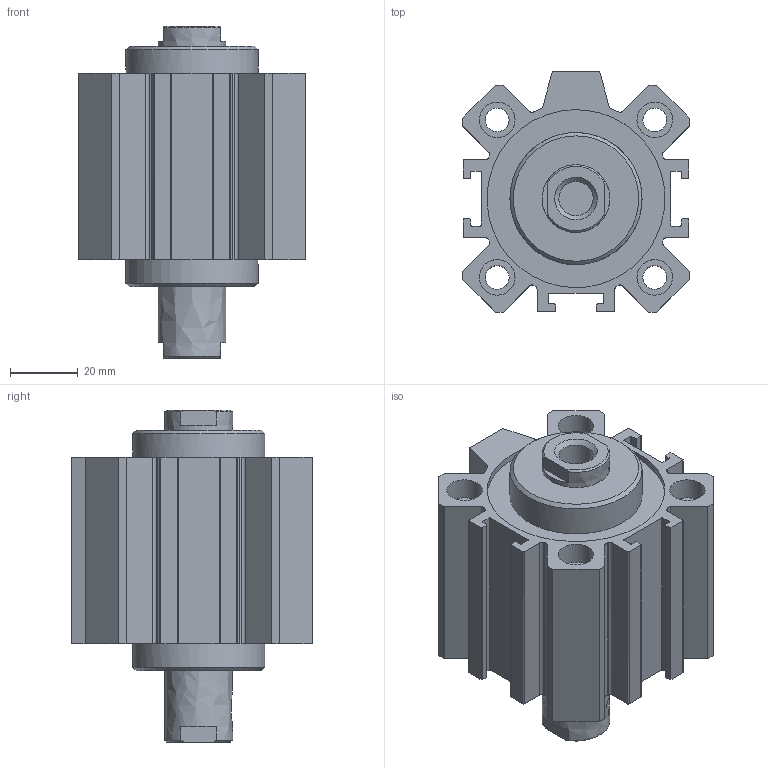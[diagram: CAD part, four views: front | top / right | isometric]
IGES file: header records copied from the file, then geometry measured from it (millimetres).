
Global section: file name: 1514_50_0015; native system: Autodesk Inventor 2014; preprocessor: unknown; author: A. Manieri; date: 20160824.134139; units: millimetre
Bounding box: 67 x 71 x 98 mm (x, y, z)
Volume: 187021.2 mm3; surface area: 59352.7 mm2
Topology: 2 solids, 2 shells, 178 faces, 482 edges, 328 vertices
Faces by surface type: bspline 178
